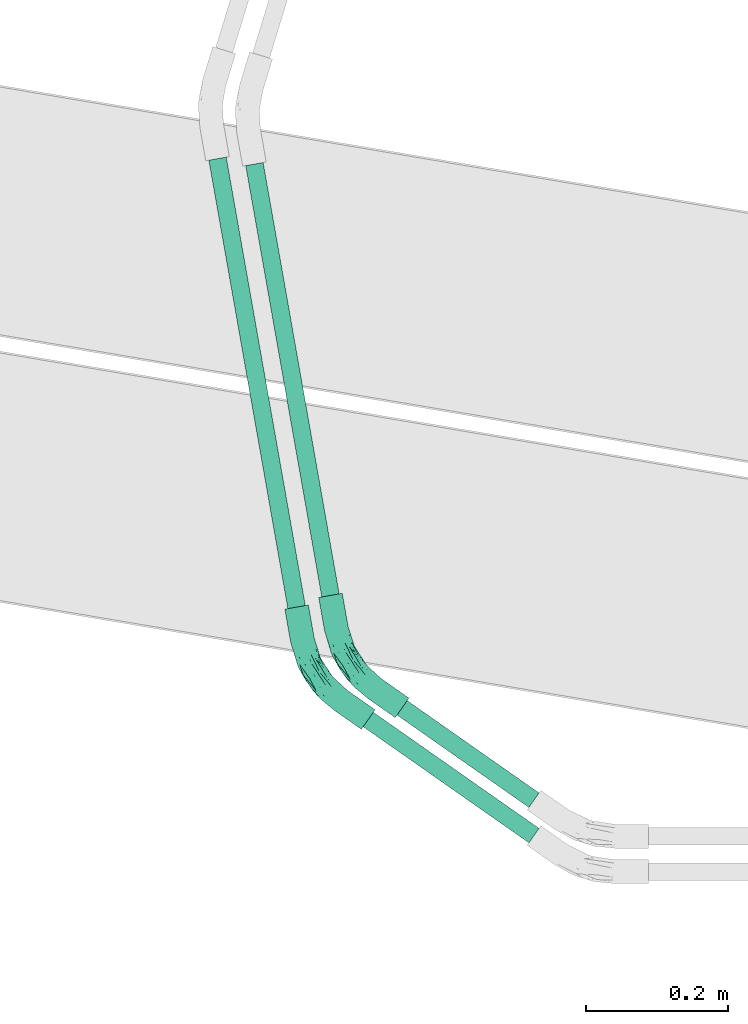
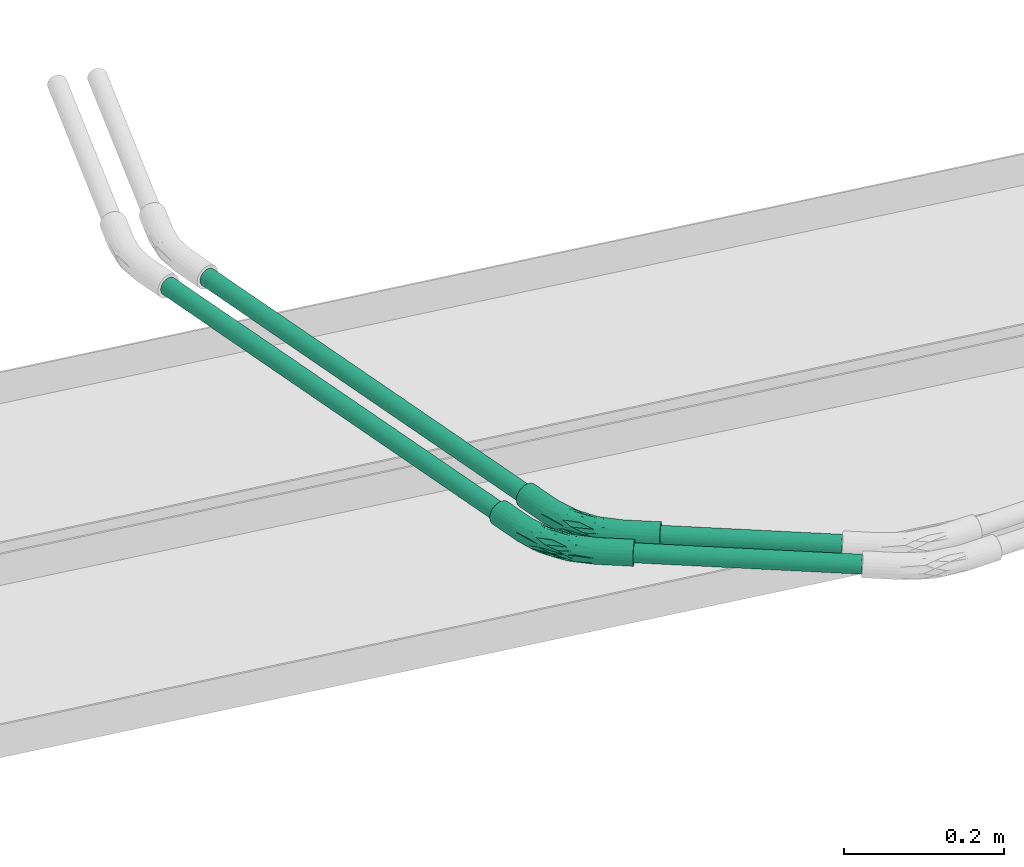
# One storey, part 9 of 22: 4 flow segments, 2 flow fittings.
"""IFC2X3 building model written with IfcOpenShell, lengths in millimetres."""

from ifc_helpers import new_model, entity, si_unit, converted_unit, derived_unit, direction, frame, origin_with_axes, origin_2d_with_axis, place, context, subcontext, project, spatial, hollow_circle, extrude, open_shell, surface_model, source, transform, mapped, type_object, element, save


model = new_model("IFC2X3")

# Units and contexts
model_context = context("Model", 3, precision=0.01, world=frame((0.0, 4.29681676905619e-09, 0.0)), true_north=direction((4.01073788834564e-13, 1.0)))
plan_context = context("Plan", 3, precision=0.01, world=frame((0.0, 4.29681676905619e-09, 0.0)), true_north=direction((4.01073788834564e-13, 1.0)))
body_context = subcontext(model_context, "Body", "Model", "MODEL_VIEW")
ifc_project = project(units=[converted_unit("PLANEANGLEUNIT", "DEGREE", entity("IfcPositiveLengthMeasure", 0.0174532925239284), si_unit("PLANEANGLEUNIT", "RADIAN"), dimensions=[0, 0, 0, 0, 0, 0, 0]), si_unit("AREAUNIT", "SQUARE_METRE"), si_unit("LENGTHUNIT", "METRE", prefix="MILLI"), si_unit("MASSUNIT", "GRAM", prefix="KILO"), si_unit("POWERUNIT", "WATT"), si_unit("PRESSUREUNIT", "PASCAL", prefix="KILO"), si_unit("FORCEUNIT", "NEWTON", prefix="KILO"), si_unit("ELECTRICVOLTAGEUNIT", "VOLT"), si_unit("ELECTRICCURRENTUNIT", "AMPERE"), si_unit("THERMODYNAMICTEMPERATUREUNIT", "DEGREE_CELSIUS"), si_unit("TIMEUNIT", "SECOND"), si_unit("VOLUMEUNIT", "CUBIC_METRE"), derived_unit("LINEARVELOCITYUNIT", [(si_unit("LENGTHUNIT", "METRE"), 1), (si_unit("TIMEUNIT", "SECOND"), -1)]), derived_unit("VOLUMETRICFLOWRATEUNIT", [(si_unit("VOLUMEUNIT", "CUBIC_METRE"), 1), (si_unit("TIMEUNIT", "SECOND"), -1)]), derived_unit("THERMALTRANSMITTANCEUNIT", [(si_unit("POWERUNIT", "WATT"), 1), (si_unit("THERMODYNAMICTEMPERATUREUNIT", "KELVIN"), -1), (si_unit("AREAUNIT", "SQUARE_METRE"), -1)]), derived_unit("SOUNDPRESSUREUNIT", [(si_unit("PRESSUREUNIT", "PASCAL"), 1)])], contexts=[model_context, plan_context])

# Site, building, storey
site_placement = place(None, frame((0.0, -4.29681676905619e-09, 0.0), z_axis=(0.0, 0.0, 1.0), x_axis=(1.0, 0.0, 0.0)))
site = spatial("IfcSite", under=ifc_project, at=site_placement, Name="ENGM", CompositionType="ELEMENT")
building_placement = place(site_placement, frame((0.0, 4.29681676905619e-09, 0.0), z_axis=(0.0, 0.0, 1.0), x_axis=(1.0, 0.0, 0.0)))
building = spatial("IfcBuilding", under=site, at=building_placement, Name="TI", CompositionType="ELEMENT")
storey_placement = place(building_placement, frame((0.0, 0.0, 210900.0), z_axis=(0.0, 0.0, 1.0), x_axis=(1.0, 0.0, 0.0)))
storey = spatial("IfcBuildingStorey", under=building, at=storey_placement, Name="Nivå F", CompositionType="ELEMENT", Elevation=210900.0)

# Flow fittings
cable_carrier_fitting_type = type_object("IfcCableCarrierFittingType", Name="Trekkerør, glatt bend", PredefinedType="BEND")
shared_shape_1 = source(origin_with_axes(), body_context, "Body", "SurfaceModel", [
    surface_model("IfcShellBasedSurfaceModel", [(-101.90646, 8.46055, -14.6541), (-101.90646, 4.3795, -16.34452), (-101.90646, 0.0, -16.92109), (-101.90646, 14.6541, -8.46055), (-101.90646, -8.46055, -14.6541), (-101.90646, 11.96502, -11.96502), (-101.90646, -16.92109, 0.0), (-101.90646, -16.34452, 4.3795), (-101.90646, -11.96502, -11.96502), (-101.90646, -14.6541, -8.46055), (-101.90646, -4.3795, -16.34452), (-101.90646, -16.34452, -4.3795), (-101.90646, 16.92109, 0.0), (-101.90646, 16.34452, -4.3795), (-101.90646, 16.34452, 4.3795), (-101.90646, 14.6541, 8.46055), (-101.90646, 8.46055, 14.6541), (-101.90646, 11.96502, 11.96502), (-101.90646, 0.0, 16.92109), (-101.90646, 4.3795, 16.34452), (-101.90646, -11.96502, 11.96502), (-101.90646, -8.46055, 14.6541), (-101.90646, -14.6541, 8.46055), (-101.90646, -4.3795, 16.34452), (-54.58849, -16.92109, 0.0), (-54.58849, -16.34452, 4.3795), (-54.58849, -14.6541, 8.46055), (-54.58849, -11.96502, 11.96502), (-54.58849, -8.46055, 14.6541), (-54.58849, -4.3795, 16.34452), (-54.58849, 0.0, 16.92109), (-54.58849, 4.3795, 16.34452), (-54.58849, 8.46055, 14.6541), (-54.58849, 11.96502, 11.96502), (-54.58849, 14.6541, 8.46055), (-54.58849, 16.34452, 4.3795), (-54.58849, 16.92109, 0.0), (-54.58849, 16.34452, -4.3795), (-54.58849, 14.6541, -8.46055), (-54.58849, 11.96502, -11.96502), (-54.58849, 8.46055, -14.6541), (-54.58849, 4.3795, -16.34452), (-54.58849, 0.0, -16.92109), (-54.58849, -4.3795, -16.34452), (-54.58849, -8.46055, -14.6541), (-54.58849, -11.96502, -11.96502), (-54.58849, -14.6541, -8.46055), (-54.58849, -16.34452, -4.3795), (10.9245, -1.31078, 3.47544), (-13.36235, -10.76027, 3.27049), (-16.09967, -11.85394, 0.0), (41.69667, 35.50312, 16.34452), (38.59989, 38.59989, 16.92109), (22.26214, 21.90343, 16.76352), (-19.66365, -2.12805, 15.57779), (-29.58477, -8.16493, 13.36262), (-20.60685, -9.47816, 10.19127), (-34.07223, 17.39409, 6.62821), (-10.25807, 24.76518, 5.65746), (-29.40446, 19.36118, 3.4046), (-3.22837, 7.79397, 16.74683), (-31.22977, -0.25365, 16.76352), (35.50312, 41.69667, 16.34452), (32.61738, 44.5824, 14.6541), (17.47707, 29.1678, 15.66764), (-16.62388, 19.5721, 10.43045), (-25.92736, 13.63005, 13.4985), (5.09993, 25.84703, 13.50914), (-21.17216, 6.44783, 16.79403), (19.76619, 3.00218, 0.0), (-6.56017, 15.83764, 15.71089), (-32.9829, 8.26659, 15.66764), (19.50033, 6.79523, 10.18462), (48.96191, 28.23788, 8.46055), (47.06044, 30.13935, 11.96502), (-0.14544, 0.35113, 13.28643), (-24.85868, 20.8351, 0.0), (44.5824, 32.61738, 14.6541), (26.69306, 15.14611, 13.36262), (8.9424, 34.00903, 7.47137), (8.93562, 35.31889, 4.60583), (25.73601, 8.11548, 6.36012), (-6.07752, -7.50254, 6.29064), (28.23788, 48.96191, 8.46055), (10.0687, 32.56851, 10.38353), (30.13935, 47.06044, 11.96502), (-30.89964, -14.04008, 5.64535), (16.01237, 12.75836, 15.5789), (12.05401, 20.50658, 16.79305), (50.15722, 27.04257, 4.3795), (50.56491, 26.63487, 0.0), (32.88314, 11.79305, 2.69799), (2.8451, 32.31038, 0.0), (26.63487, 50.56491, 0.0), (27.04257, 50.15722, 4.3795), (-32.9829, 8.26659, -15.66764), (16.55602, 18.09298, -16.75967), (38.59989, 38.59989, -16.92109), (41.69667, 35.50312, -16.34452), (30.13935, 47.06044, -11.96502), (32.61738, 44.5824, -14.6541), (8.69552, 27.97131, -13.4985), (-6.56017, 15.83764, -15.71089), (-21.88281, 14.67041, -13.50914), (-31.29267, 18.65579, -4.60583), (-30.37125, 17.72478, -7.47137), (-10.25807, 24.76517, -5.65746), (-1.59965, 3.86188, -15.54749), (17.63726, 9.2923, -13.33594), (-19.1381, -5.92521, -13.33619), (-2.08471, 25.59442, -10.43045), (-30.14906, 15.90977, -10.38353), (-24.73941, 5.56629, -16.79215), (10.41167, 19.53028, -16.79403), (-18.36618, -11.17146, -6.33871), (-28.92763, -11.20296, -10.21852), (-19.67101, 2.27248, -16.75686), (-22.81878, -13.17372, -3.2081), (17.47707, 29.1678, -15.66764), (-30.36783, -4.42984, -15.59506), (24.60567, 18.34093, -15.59506), (35.50312, 41.69667, -16.34452), (7.10167, 34.48251, -3.4046), (27.04257, 50.15722, -4.3795), (44.5824, 32.61738, -14.6541), (47.06044, 30.13935, -11.96502), (28.23788, 48.96191, -8.46055), (11.79322, 36.39219, -6.62821), (1.03493, -2.49855, -10.11808), (48.96191, 28.23788, -8.46055), (28.37661, 12.53324, -10.21852), (20.88626, 5.08744, -6.33871), (25.45054, 6.82009, -3.2081), (2.19574, -5.30098, -3.30061), (50.15722, 27.04257, -4.3795), (60.50143, 83.61607, -4.3795), (72.05875, 72.05875, -16.92109), (68.96197, 75.15552, -16.34452), (66.07624, 78.04126, -14.6541), (63.5982, 80.51929, -11.96502), (61.69674, 82.42076, -8.46055), (75.15552, 68.96197, -16.34452), (80.51929, 63.5982, -11.96502), (78.04126, 66.07624, -14.6541), (83.61607, 60.50143, -4.3795), (82.42076, 61.69674, -8.46055), (83.61607, 60.50143, 4.3795), (84.02377, 60.09373, 0.0), (75.15552, 68.96197, 16.34452), (60.50143, 83.61607, 4.3795), (61.69674, 82.42076, 8.46055), (66.07624, 78.04126, 14.6541), (72.05875, 72.05875, 16.92109), (63.5982, 80.51929, 11.96502), (68.96197, 75.15552, 16.34452), (80.51929, 63.5982, 11.96502), (82.42076, 61.69674, 8.46055), (78.04126, 66.07624, 14.6541), (60.09373, 84.02377, 0.0)], [open_shell([[[0, 1, 2]], [[3, 0, 2]], [[4, 3, 2]], [[5, 0, 3]], [[3, 6, 7]], [[8, 9, 4]], [[2, 10, 4]], [[9, 11, 4]], [[11, 3, 4]], [[3, 11, 6]], [[12, 13, 3]], [[12, 7, 14]], [[14, 7, 15]], [[16, 17, 18]], [[15, 18, 17]], [[18, 19, 16]], [[20, 21, 22]], [[15, 7, 22]], [[23, 18, 21]], [[15, 22, 21]], [[15, 21, 18]], [[3, 7, 12]], [[7, 24, 25]], [[26, 22, 25]], [[21, 27, 28]], [[26, 27, 20]], [[23, 28, 29]], [[24, 7, 6]], [[25, 22, 7]], [[26, 20, 22]], [[27, 21, 20]], [[23, 21, 28]], [[29, 18, 23]], [[29, 30, 18]], [[16, 31, 32]], [[33, 17, 32]], [[14, 34, 35]], [[33, 34, 15]], [[12, 35, 36]], [[31, 19, 30]], [[31, 16, 19]], [[30, 19, 18]], [[32, 17, 16]], [[33, 15, 17]], [[14, 15, 34]], [[35, 12, 14]], [[13, 36, 37]], [[38, 3, 37]], [[0, 39, 40]], [[38, 39, 5]], [[1, 40, 41]], [[36, 13, 12]], [[37, 3, 13]], [[38, 5, 3]], [[39, 0, 5]], [[1, 0, 40]], [[41, 2, 1]], [[41, 42, 2]], [[4, 43, 44]], [[45, 8, 44]], [[11, 46, 47]], [[45, 46, 9]], [[6, 47, 24]], [[43, 10, 42]], [[43, 4, 10]], [[42, 10, 2]], [[44, 8, 4]], [[45, 9, 8]], [[11, 9, 46]], [[47, 6, 11]], [[48, 49, 50]], [[49, 24, 50]], [[51, 52, 53]], [[29, 28, 54]], [[27, 55, 28]], [[56, 27, 26]], [[57, 58, 59]], [[60, 61, 54]], [[61, 30, 29]], [[62, 63, 64]], [[65, 66, 67]], [[31, 30, 68]], [[48, 50, 69]], [[67, 66, 70]], [[33, 32, 66]], [[65, 58, 57]], [[71, 32, 31]], [[72, 73, 74]], [[56, 72, 75]], [[59, 76, 36]], [[74, 77, 78]], [[36, 35, 59]], [[58, 79, 80]], [[81, 72, 82]], [[70, 71, 68]], [[83, 84, 85]], [[25, 49, 86]], [[34, 33, 65]], [[87, 77, 51]], [[54, 87, 60]], [[72, 56, 82]], [[88, 70, 68]], [[72, 81, 73]], [[73, 81, 89]], [[88, 62, 64]], [[78, 72, 74]], [[60, 88, 68]], [[90, 89, 91]], [[48, 81, 82]], [[55, 56, 75]], [[84, 67, 85]], [[59, 92, 76]], [[26, 86, 56]], [[92, 80, 93]], [[75, 78, 87]], [[80, 79, 94]], [[87, 51, 53]], [[70, 64, 67]], [[61, 68, 30]], [[65, 84, 79]], [[60, 53, 88]], [[67, 63, 85]], [[88, 52, 62]], [[65, 33, 66]], [[75, 87, 54]], [[91, 81, 48]], [[66, 32, 71]], [[55, 54, 28]], [[79, 84, 83]], [[67, 84, 65]], [[56, 55, 27]], [[54, 55, 75]], [[87, 78, 77]], [[72, 78, 75]], [[94, 79, 83]], [[65, 79, 58]], [[93, 80, 94]], [[92, 58, 80]], [[54, 61, 29]], [[68, 61, 60]], [[88, 53, 52]], [[87, 53, 60]], [[48, 82, 49]], [[91, 48, 69]], [[90, 91, 69]], [[81, 91, 89]], [[86, 49, 82]], [[24, 49, 25]], [[56, 86, 82]], [[26, 25, 86]], [[68, 71, 31]], [[66, 71, 70]], [[67, 64, 63]], [[88, 64, 70]], [[57, 35, 34]], [[92, 59, 58]], [[35, 57, 59]], [[65, 57, 34]], [[40, 95, 41]], [[96, 97, 98]], [[99, 100, 101]], [[102, 95, 103]], [[76, 104, 36]], [[104, 105, 37]], [[104, 106, 105]], [[107, 108, 109]], [[105, 110, 111]], [[40, 39, 103]], [[110, 99, 101]], [[112, 102, 113]], [[114, 46, 115]], [[116, 113, 96]], [[24, 47, 117]], [[110, 101, 103]], [[114, 47, 46]], [[101, 100, 118]], [[119, 44, 43]], [[112, 41, 95]], [[46, 45, 115]], [[45, 44, 109]], [[107, 119, 116]], [[113, 116, 112]], [[96, 98, 120]], [[113, 121, 97]], [[122, 76, 92]], [[112, 116, 42]], [[93, 123, 122]], [[124, 125, 108]], [[43, 42, 116]], [[110, 126, 99]], [[102, 103, 101]], [[106, 122, 127]], [[100, 121, 118]], [[128, 115, 109]], [[109, 44, 119]], [[127, 110, 106]], [[128, 109, 108]], [[113, 102, 118]], [[120, 98, 124]], [[113, 97, 96]], [[129, 130, 125]], [[107, 120, 108]], [[42, 41, 112]], [[107, 116, 96]], [[128, 130, 131]], [[128, 131, 114]], [[69, 132, 90]], [[69, 133, 132]], [[50, 117, 133]], [[133, 117, 114]], [[133, 69, 50]], [[129, 134, 131]], [[130, 108, 125]], [[122, 92, 93]], [[111, 103, 39]], [[38, 111, 39]], [[105, 111, 38]], [[103, 111, 110]], [[109, 115, 45]], [[114, 115, 128]], [[131, 130, 129]], [[108, 130, 128]], [[37, 105, 38]], [[110, 105, 106]], [[36, 104, 37]], [[76, 106, 104]], [[116, 119, 43]], [[109, 119, 107]], [[108, 120, 124]], [[96, 120, 107]], [[114, 131, 133]], [[132, 133, 131]], [[103, 95, 40]], [[112, 95, 102]], [[113, 118, 121]], [[101, 118, 102]], [[24, 117, 50]], [[47, 114, 117]], [[131, 134, 132]], [[90, 132, 134]], [[127, 123, 126]], [[76, 122, 106]], [[123, 127, 122]], [[110, 127, 126]], [[135, 136, 137]], [[135, 137, 138]], [[139, 140, 135]], [[139, 135, 138]], [[136, 135, 141]], [[141, 142, 143]], [[142, 141, 144]], [[142, 144, 145]], [[141, 135, 144]], [[144, 146, 147]], [[144, 135, 148]], [[135, 149, 150]], [[150, 151, 135]], [[151, 152, 135]], [[151, 150, 153]], [[151, 154, 152]], [[146, 155, 156]], [[155, 146, 157]], [[146, 148, 157]], [[146, 144, 148]], [[152, 148, 135]], [[149, 135, 158]], [[89, 147, 146]], [[156, 73, 146]], [[77, 155, 157]], [[156, 155, 74]], [[51, 157, 148]], [[147, 89, 90]], [[146, 73, 89]], [[156, 74, 73]], [[155, 77, 74]], [[51, 77, 157]], [[148, 52, 51]], [[148, 152, 52]], [[63, 154, 151]], [[153, 85, 151]], [[94, 150, 149]], [[153, 150, 83]], [[93, 149, 158]], [[154, 62, 152]], [[154, 63, 62]], [[152, 62, 52]], [[151, 85, 63]], [[153, 83, 85]], [[94, 83, 150]], [[149, 93, 94]], [[93, 158, 135]], [[140, 123, 135]], [[138, 137, 121]], [[139, 138, 99]], [[126, 140, 139]], [[140, 126, 123]], [[123, 93, 135]], [[99, 138, 100]], [[100, 138, 121]], [[137, 97, 121]], [[99, 126, 139]], [[137, 136, 97]], [[124, 141, 143]], [[142, 125, 143]], [[134, 145, 144]], [[142, 145, 129]], [[90, 144, 147]], [[141, 98, 136]], [[141, 124, 98]], [[136, 98, 97]], [[143, 125, 124]], [[142, 129, 125]], [[134, 129, 145]], [[144, 90, 134]]])]),
])
for number, where, z_axis, x_axis, name in (
    (1, (585014.11117, 576989.51776, -56.7999999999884), (0.0, 0.0, 1.0), (0.173647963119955, -0.984807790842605, 0.0), "Trekkerør, glatt bend"),
    (2, (584966.24656, 576973.03292, -56.7999999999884), (0.0, 0.0, 1.0), (0.173647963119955, -0.984807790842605, 0.0), "Trekkerør, glatt bend"),
):
    element("IfcFlowFitting", number, at=place(storey_placement, frame(where, z_axis=z_axis, x_axis=x_axis)), inside=storey, type_object=cable_carrier_fitting_type, Name=name, context=body_context, shape_type="MappedRepresentation", body=[
        mapped(shared_shape_1, transform((0.0, 0.0, 0.0), scale=1.0)),
    ])

# Flow segments
cable_carrier_segment_type = type_object("IfcCableCarrierSegmentType", Name="Trekkerør, korrugert", PredefinedType="CONDUITSEGMENT")
shared_shape_2 = source(origin_with_axes(), body_context, "Body", "SweptSolid", [
    extrude(hollow_circle(Radius=12.5, WallThickness=2.0, at=origin_2d_with_axis()), frame((0.0, 0.0, 0.0), z_axis=(1.0, 0.0, 0.0), x_axis=(0.0, 1.0, 0.0)), (0.0, 0.0, 1.0), 227.5),
])
flow_segment_1_placement = place(storey_placement, frame((585283.91612, 576800.5983, -56.7999999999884), z_axis=(0.0, 0.0, 1.0), x_axis=(-0.819152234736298, 0.573576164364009, 0.0)))
element("IfcFlowSegment", 3, at=flow_segment_1_placement, inside=storey, type_object=cable_carrier_segment_type, Name="Trekkerør, korrugert", context=body_context, shape_type="MappedRepresentation", body=[
    mapped(shared_shape_2, transform((0.0, 0.0, 0.0), scale=1.0)),
])
shared_shape_3 = source(origin_with_axes(), body_context, "Body", "SweptSolid", [
    extrude(hollow_circle(Radius=12.5, WallThickness=2.0, at=origin_2d_with_axis()), frame((0.0, 0.0, 0.0), z_axis=(1.0, 0.0, 0.0), x_axis=(0.0, 1.0, 0.0)), (0.0, 0.0, 1.0), 618.7),
])
flow_segment_2_placement = place(storey_placement, frame((584996.4153, 577089.87603, -56.7999999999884), z_axis=(0.0, 0.0, 1.0), x_axis=(-0.173647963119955, 0.984807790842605, 0.0)))
element("IfcFlowSegment", 4, at=flow_segment_2_placement, inside=storey, type_object=cable_carrier_segment_type, Name="Trekkerør, korrugert", context=body_context, shape_type="MappedRepresentation", body=[
    mapped(shared_shape_3, transform((0.0, 0.0, 0.0), scale=1.0)),
])
shared_shape_4 = source(origin_with_axes(), body_context, "Body", "SweptSolid", [
    extrude(hollow_circle(Radius=12.5, WallThickness=2.0, at=origin_2d_with_axis()), frame((0.0, 0.0, 0.0), z_axis=(1.0, 0.0, 0.0), x_axis=(0.0, 1.0, 0.0)), (0.0, 0.0, 1.0), 285.9),
])
flow_segment_3_placement = place(storey_placement, frame((585283.91612, 576750.5983, -56.7999999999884), z_axis=(0.0, 0.0, 1.0), x_axis=(-0.819152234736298, 0.573576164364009, 0.0)))
element("IfcFlowSegment", 5, at=flow_segment_3_placement, inside=storey, type_object=cable_carrier_segment_type, Name="Trekkerør, korrugert", context=body_context, shape_type="MappedRepresentation", body=[
    mapped(shared_shape_4, transform((0.0, 0.0, 0.0), scale=1.0)),
])
shared_shape_5 = source(origin_with_axes(), body_context, "Body", "SweptSolid", [
    extrude(hollow_circle(Radius=12.5, WallThickness=2.0, at=origin_2d_with_axis()), frame((0.0, 0.0, 0.0), z_axis=(1.0, 0.0, 0.0), x_axis=(0.0, 1.0, 0.0)), (0.0, 0.0, 1.0), 643.2),
])
flow_segment_4_placement = place(storey_placement, frame((584948.55069, 577073.39119, -56.7999999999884), z_axis=(0.0, 0.0, 1.0), x_axis=(-0.173647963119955, 0.984807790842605, 0.0)))
element("IfcFlowSegment", 6, at=flow_segment_4_placement, inside=storey, type_object=cable_carrier_segment_type, Name="Trekkerør, korrugert", context=body_context, shape_type="MappedRepresentation", body=[
    mapped(shared_shape_5, transform((0.0, 0.0, 0.0), scale=1.0)),
])

save(model, "model.ifc")
